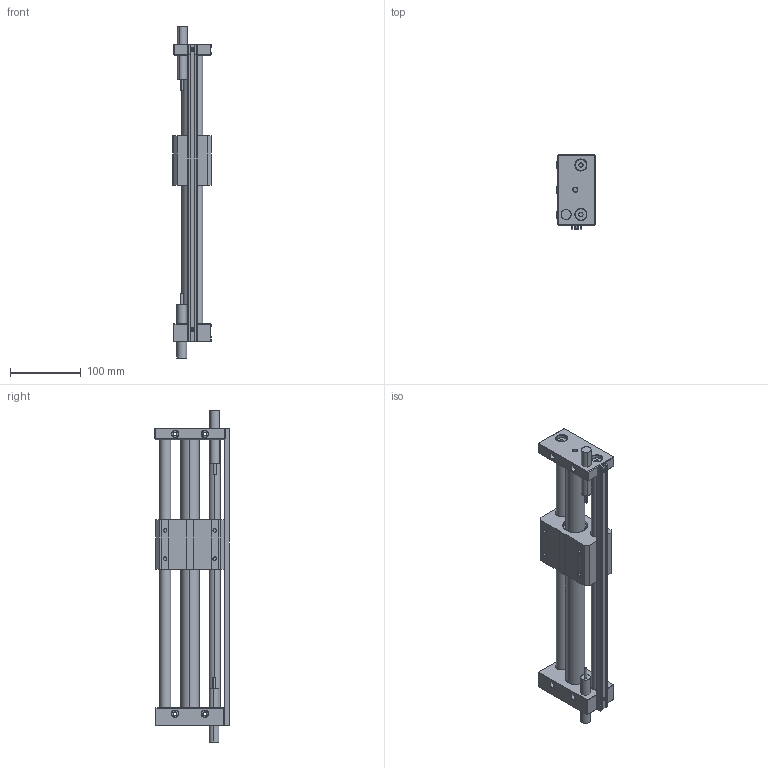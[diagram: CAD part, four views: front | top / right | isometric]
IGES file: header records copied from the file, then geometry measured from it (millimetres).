
Start section: SolidWorks IGES file using analytic representation for surfaces
Global section: file name: D:\Documents de SGA\Pieces 2D et 3D\GRU\iges\GRU 25.300.IGS; native system: SolidWorks 2010; preprocessor: SolidWorks 2010; author: SGA; date: 111216.110831; units: millimetre
Bounding box: 54 x 105.81 x 469.45 mm (x, y, z)
Surface area: 193567.1 mm2 (no closed solid volume)
Topology: 0 solids, 0 shells, 294 faces, 4396 edges, 4396 vertices
Faces by surface type: revolution 158, bspline 136
